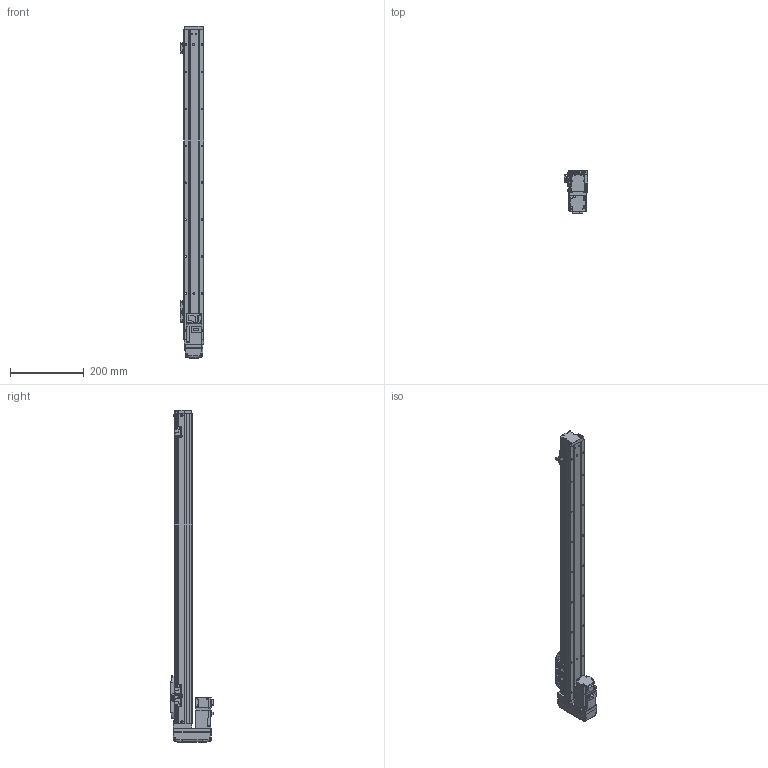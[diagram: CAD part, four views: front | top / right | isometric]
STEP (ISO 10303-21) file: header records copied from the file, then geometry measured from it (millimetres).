
FILE_DESCRIPTION (( 'STEP AP203' ), '1' );
FILE_NAME ('GTH5-700-BM-M10-C4.step', '2022-09-23T00:48:29', ( '微软用户' ), ( '微软中国' ), 'SwSTEP 2.0', 'SolidWorks 2020', '' );
FILE_SCHEMA (( 'CONFIG_CONTROL_DESIGN' ));
Length unit declared in the file: millimetre
Products named in the file (19): GBT96.1-2002 3×0.8; GTH50-026; GTH50-001_700; GTH50-024; GTH5-700-BM-M10-C4; GBT 70.1-M4×16; GBT 70.1-M2.5×6; GTH50-003; GTH50-028; GTH50-006; GTH50-013; GTH50-022-1; GTH50-004; GTH50-023; HG-KR13; GBT 70.3-M3℅6; GBT 70.1-M3℅6; GTH50-027-1_BTHA50-027-2; BTH-M3X5X6
Assembly tree (57 placements, depth 2):
  GTH5-700-BM-M10-C4
    GTH50-006
    GTH50-004
    GBT 70.3-M3℅6  x4
    BTH-M3X5X6  x8
    GTH50-001_700
    GBT 70.1-M4×16  x8
    GTH50-003
    GTH50-013
    GTH50-023  x3
    GBT 70.1-M3℅6  x12
    GBT96.1-2002 3×0.8  x6
    GTH50-024  x3
    GBT 70.1-M2.5×6  x2
    GTH50-028  x2
    GTH50-022-1
    HG-KR13
    GTH50-027-1_BTHA50-027-2
    GTH50-026
Bounding box: 63.8 x 118.9 x 900 mm (x, y, z)
Volume: 2021475.1 mm3; surface area: 328897.4 mm2
Topology: 59 solids, 59 shells, 2164 faces, 5028 edges, 3084 vertices
Faces by surface type: plane 1142, cylinder 593, cone 219, torus 162, bspline 40, sphere 8
Entity records: 40308 total; most frequent: CARTESIAN_POINT 7971, DIRECTION 6213, ORIENTED_EDGE 5970, EDGE_CURVE 2985, AXIS2_PLACEMENT_3D 2164, VERTEX_POINT 1886, VECTOR 1885, LINE 1885
